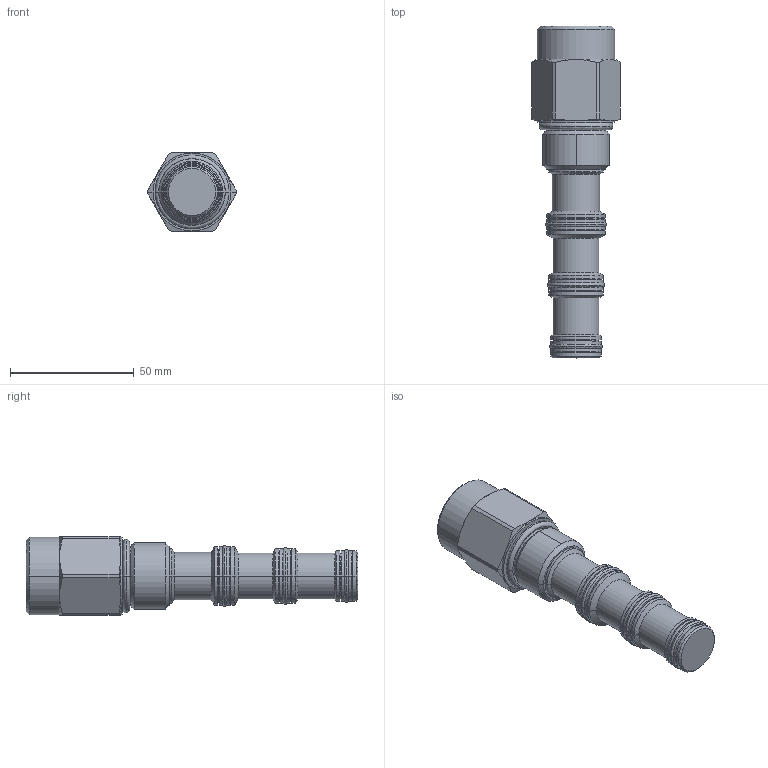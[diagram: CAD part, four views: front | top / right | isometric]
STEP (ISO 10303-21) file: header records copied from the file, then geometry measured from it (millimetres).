
FILE_DESCRIPTION((''),'2;1');
FILE_NAME('5263203_SW0001','2009-02-09T',('jcs'),(''),'PRO/ENGINEER BY PARAMETRIC TECHNOLOGY CORPORATION, 2008010','PRO/ENGINEER BY PARAMETRIC TECHNOLOGY CORPORATION, 2008010','');
FILE_SCHEMA(('CONFIG_CONTROL_DESIGN'));
Length unit declared in the file: inch
Products named in the file (1): 5263203_SW0001
Bounding box: 35.81 x 134.24 x 31.71 mm (x, y, z)
Volume: 67290.8 mm3; surface area: 15804.8 mm2
Topology: 5 solids, 5 shells, 170 faces, 356 edges, 202 vertices
Faces by surface type: cylinder 64, cone 36, revolution 32, plane 22, torus 16
Entity records: 5112 total; most frequent: CARTESIAN_POINT 1382, DIRECTION 826, ORIENTED_EDGE 712, EDGE_CURVE 356, AXIS2_PLACEMENT_3D 344, CIRCLE 206, VERTEX_POINT 202, EDGE_LOOP 184
